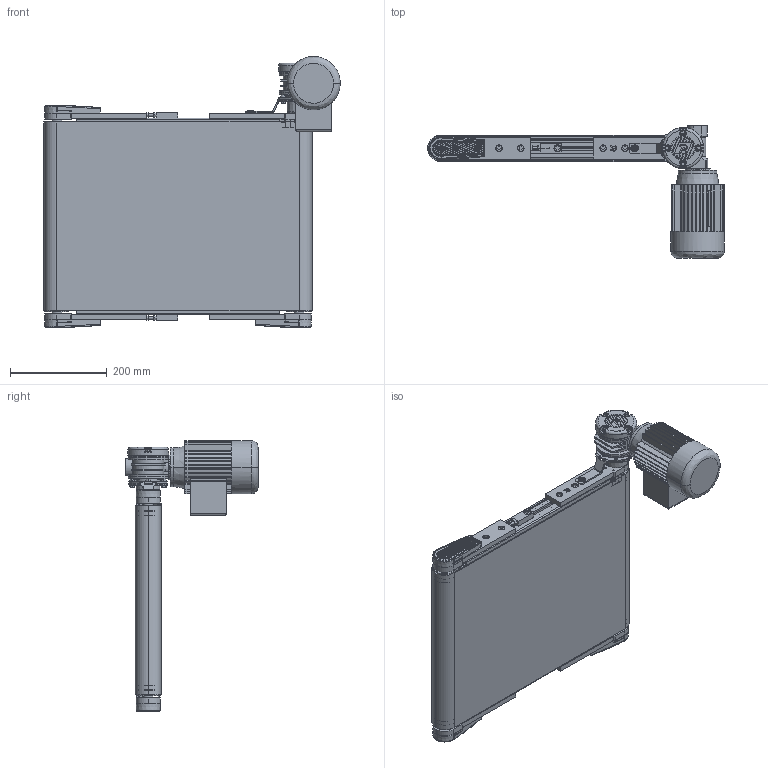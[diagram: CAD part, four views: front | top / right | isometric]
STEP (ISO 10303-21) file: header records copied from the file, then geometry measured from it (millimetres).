
FILE_DESCRIPTION (( 'STEP AP203' ), '1' );
FILE_NAME ('NASTRO_RETTILINEO_TAPPETO.step', '2026-04-20T12:16:40', ( 'Utente Windows' ), ( '' ), 'SwSTEP 2.0', 'SolidWorks 2024', '' );
FILE_SCHEMA (( 'CONFIG_CONTROL_DESIGN' ));
Length unit declared in the file: millimetre
Products named in the file (35): VITE_RONDELLA_M8X20; TAPPETO_STANDARD_CINGHIE; 084.807.002_084.807.002; 084.303.001; 084.802.065_Default<A macchina>; CH03P_DX; RULLO_50_TRAINO_CINGHIE_30_DX; 084.802.008; VITI TSEI UNI 5933_M5x12 UNI 5933; LAMIERA_STANDARD; 084.301.000 VITI ALUSIC_084.301.003; 084.802.061; 084.302.000 DADI ALUSIC 13x13_084.302.004; VITI TE UNI 5739_M6x16 UNI 5739; VITI TSEI UNI 5933_M4x12 UNI 5933; 084.807.003_084.807.003<A macchina>; NASTRO_RETTILINEO_TAPPETO; BLOCCO_BRACCIO_CH03P_VF30P; VITI TCEI UNI 5931_M6x12 UNI 5931; 084.802.017_084.802.017; 084.302.000 DADI ALUSIC 13x13-1_084.302.007; 084.803.018; VITI TSEI UNI 5933 INOX_0412UNI5933A2; VITI TSEI UNI 5933_M4x10 UNI 5933; VITI TCEI UNI 5931_M4x25 UNI 5931; RULLO_50_RINVIO_CINGHIE; 084.802.062; BLOCCO_TRAINO_50_STANDARD; TELAIO_50_CINGHIE_Default<A macchina>; 084.802.071; 084.808.012; VITE_DADO_M5X12; 084.302.000 DADI ALUSIC 13x13-1_084.302.004; BLOCCO_RINVIO_50_STANDARD; BLOCCO_TRAINO_50_STANDARD_30_DX
Assembly tree (67 placements, depth 4):
  NASTRO_RETTILINEO_TAPPETO
    TAPPETO_STANDARD_CINGHIE
    TELAIO_50_CINGHIE_Default<A macchina>
    LAMIERA_STANDARD
    RULLO_50_TRAINO_CINGHIE_30_DX
    BLOCCO_TRAINO_50_STANDARD_30_DX
      084.807.003_084.807.003<A macchina>
      084.802.017_084.802.017
      084.301.000 VITI ALUSIC_084.301.003  x2
      084.302.000 DADI ALUSIC 13x13-1_084.302.004  x2
      BLOCCO_BRACCIO_CH03P_VF30P
        084.808.012
        084.802.062
        084.802.061
        VITI TE UNI 5739_M6x16 UNI 5739  x4
        084.803.018
        VITI TCEI UNI 5931_M6x12 UNI 5931  x4
      084.802.065_Default<A macchina>
      VITI TCEI UNI 5931_M4x25 UNI 5931  x2
    BLOCCO_TRAINO_50_STANDARD
      084.807.002_084.807.002
      084.802.017_084.802.017
      084.301.000 VITI ALUSIC_084.301.003  x2
      084.302.000 DADI ALUSIC 13x13-1_084.302.004  x2
      VITI TSEI UNI 5933_M4x12 UNI 5933  x4
      084.802.071
      VITI TSEI UNI 5933 INOX_0412UNI5933A2  x2
    RULLO_50_RINVIO_CINGHIE
    BLOCCO_RINVIO_50_STANDARD  x2
      084.807.002_084.807.002
      084.802.017_084.802.017
      084.802.008
      084.301.000 VITI ALUSIC_084.301.003
      084.302.000 DADI ALUSIC 13x13_084.302.004
      VITI TSEI UNI 5933_M4x10 UNI 5933
      084.802.071
    VITE_RONDELLA_M8X20  x2
      084.303.001
      084.301.000 VITI ALUSIC_084.301.003
    VITE_DADO_M5X12  x4
      084.302.000 DADI ALUSIC 13x13-1_084.302.007
      VITI TSEI UNI 5933_M5x12 UNI 5933
    CH03P_DX
Bounding box: 612 x 273 x 559 mm (x, y, z)
Volume: 6646044.5 mm3; surface area: 2732085 mm2
Topology: 93 solids, 99 shells, 5073 faces, 13006 edges, 8261 vertices
Faces by surface type: plane 2606, cylinder 1177, bspline 506, cone 505, torus 241, sphere 38
Entity records: 110523 total; most frequent: CARTESIAN_POINT 32840, ORIENTED_EDGE 15788, DIRECTION 14652, EDGE_CURVE 7894, AXIS2_PLACEMENT_3D 5085, VERTEX_POINT 5035, VECTOR 4482, LINE 4482
